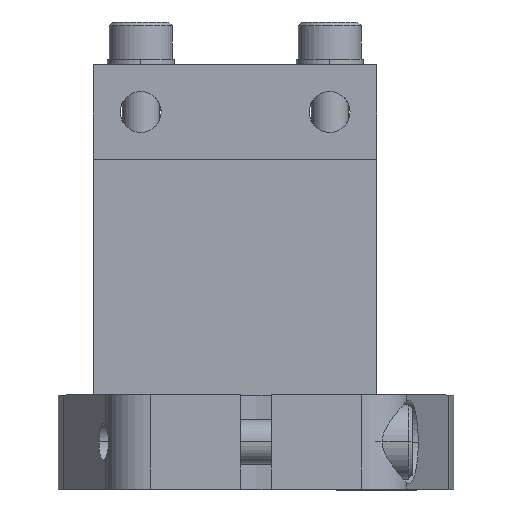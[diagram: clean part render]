
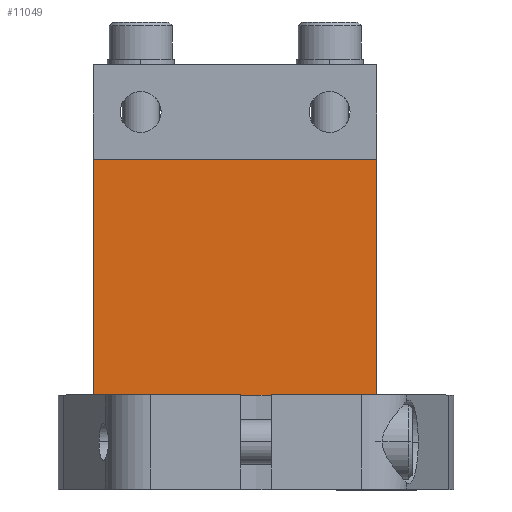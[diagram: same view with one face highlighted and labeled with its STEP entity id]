
A CAD part, top view. The second image highlights one B-rep face of the part: STEP entity #11049.
In plain terms, the highlighted planar face has unit normal (0, 0, 1).
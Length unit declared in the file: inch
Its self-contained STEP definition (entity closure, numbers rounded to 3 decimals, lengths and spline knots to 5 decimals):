
#339 = DIRECTION ( 'NONE',  ( 0., -1., 0. ) ) ;
#340 = CARTESIAN_POINT ( 'NONE',  ( 1.5, 1.25, 0. ) ) ;
#341 = DIRECTION ( 'NONE',  ( 1., 0., 0. ) ) ;
#342 = CARTESIAN_POINT ( 'NONE',  ( 0., 0., 0. ) ) ;
#347 = DIRECTION ( 'NONE',  ( 0., -1., 0. ) ) ;
#348 = CARTESIAN_POINT ( 'NONE',  ( 0., 1.25, 0. ) ) ;
#5036 = AXIS2_PLACEMENT_3D ( 'NONE', #35107, #35104, #35103 ) ;
#7367 = EDGE_CURVE ( 'NONE', #12306, #12175, #40735, .T. ) ;
#7369 = EDGE_CURVE ( 'NONE', #12175, #12174, #40739, .T. ) ;
#7370 = EDGE_CURVE ( 'NONE', #12305, #12174, #40741, .T. ) ;
#11049 = ADVANCED_FACE ( 'NONE', ( #62223 ), #35108, .F. ) ;
#12174 = VERTEX_POINT ( 'NONE', #18133 ) ;
#12175 = VERTEX_POINT ( 'NONE', #18132 ) ;
#12305 = VERTEX_POINT ( 'NONE', #17957 ) ;
#12306 = VERTEX_POINT ( 'NONE', #17956 ) ;
#16602 = EDGE_LOOP ( 'NONE', ( #60364, #60366, #60368, #60369 ) ) ;
#17956 = CARTESIAN_POINT ( 'NONE',  ( 0., 1.25, 0. ) ) ;
#17957 = CARTESIAN_POINT ( 'NONE',  ( 1.5, 1.25, 0. ) ) ;
#18132 = CARTESIAN_POINT ( 'NONE',  ( 0., 0., 0. ) ) ;
#18133 = CARTESIAN_POINT ( 'NONE',  ( 1.5, 0., 0. ) ) ;
#22203 = EDGE_CURVE ( 'NONE', #12306, #12305, #43251, .T. ) ;
#35103 = DIRECTION ( 'NONE',  ( -1., 0., 0. ) ) ;
#35104 = DIRECTION ( 'NONE',  ( 0., 0., -1. ) ) ;
#35107 = CARTESIAN_POINT ( 'NONE',  ( 0., 1.25, 0. ) ) ;
#35108 = PLANE ( 'NONE',  #5036 ) ;
#40735 = LINE ( 'NONE', #348, #40736 ) ;
#40736 = VECTOR ( 'NONE', #347, 39.37008 ) ;
#40739 = LINE ( 'NONE', #342, #40740 ) ;
#40740 = VECTOR ( 'NONE', #341, 39.37008 ) ;
#40741 = LINE ( 'NONE', #340, #40742 ) ;
#40742 = VECTOR ( 'NONE', #339, 39.37008 ) ;
#43251 = LINE ( 'NONE', #63598, #43252 ) ;
#43252 = VECTOR ( 'NONE', #63597, 39.37008 ) ;
#60364 = ORIENTED_EDGE ( 'NONE', *, *, #7369, .T. ) ;
#60366 = ORIENTED_EDGE ( 'NONE', *, *, #7370, .F. ) ;
#60368 = ORIENTED_EDGE ( 'NONE', *, *, #22203, .F. ) ;
#60369 = ORIENTED_EDGE ( 'NONE', *, *, #7367, .T. ) ;
#62223 = FACE_OUTER_BOUND ( 'NONE', #16602, .T. ) ;
#63597 = DIRECTION ( 'NONE',  ( 1., 0., 0. ) ) ;
#63598 = CARTESIAN_POINT ( 'NONE',  ( 0., 1.25, 0. ) ) ;
